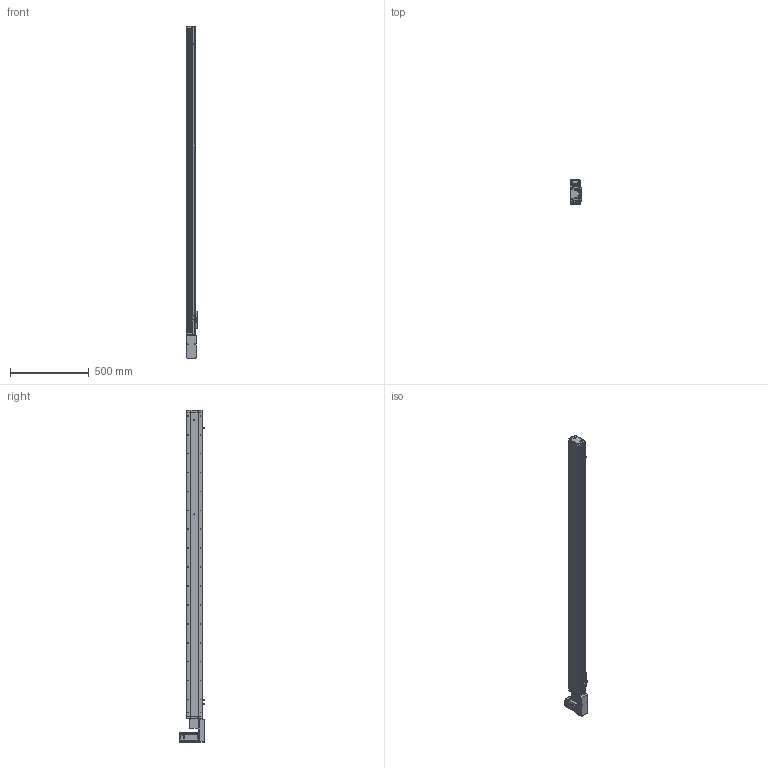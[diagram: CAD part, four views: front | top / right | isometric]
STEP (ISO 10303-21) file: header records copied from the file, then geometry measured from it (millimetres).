
FILE_DESCRIPTION (( 'STEP AP214' ), '1' );
FILE_NAME ('KSD100B-S1750-MRB-CR.STEP', '2019-11-13T06:32:00', ( '微软用户' ), ( '微软中国' ), 'SwSTEP 2.0', 'SolidWorks 2014', '' );
FILE_SCHEMA (( 'AUTOMOTIVE_DESIGN' ));
Length unit declared in the file: millimetre
Products named in the file (15): 100宽马达安装板连板上下折丝杆同步带; U倰嫖萇EEㄜSX672; 感应片100宽全封闭; MHMD042G1CA_2_03; 100宽马达安装板同步带右; 100遵鎮湛假蚾啣蜊; 100宽端板同步带全封闭; 100宽滚珠螺姆安装板1防护罩; 100宽滚珠螺姆安装板1; 100遵裔啣揤啣; 100遵裔啣1750俴最; 100宽侧板1750行程同步带; 100宽底板全封闭1750行程同步带; KSD100B-S1750-MRB-CR; 悵誘欶奻狟殏
Assembly tree (18 placements, depth 2):
  KSD100B-S1750-MRB-CR
    100宽底板全封闭1750行程同步带
    100宽侧板1750行程同步带  x2
    100遵裔啣1750俴最
    100遵裔啣揤啣  x2
    100宽滚珠螺姆安装板1
    100宽滚珠螺姆安装板1防护罩
    100宽端板同步带全封闭
    100遵鎮湛假蚾啣蜊
    100宽马达安装板同步带右
    感应片100宽全封闭
    U倰嫖萇EEㄜSX672  x3
    100宽马达安装板连板上下折丝杆同步带
    悵誘欶奻狟殏
    MHMD042G1CA_2_03
Bounding box: 70 x 156.2 x 2107 mm (x, y, z)
Volume: 3839735.9 mm3; surface area: 1671964.4 mm2
Topology: 17 solids, 18 shells, 2025 faces, 5674 edges, 3573 vertices
Faces by surface type: cylinder 929, plane 741, cone 335, bspline 20
Entity records: 72202 total; most frequent: CARTESIAN_POINT 11254, DIRECTION 9900, ORIENTED_EDGE 9072, EDGE_CURVE 4608, AXIS2_PLACEMENT_3D 3633, VERTEX_POINT 3051, VECTOR 2634, LINE 2634
